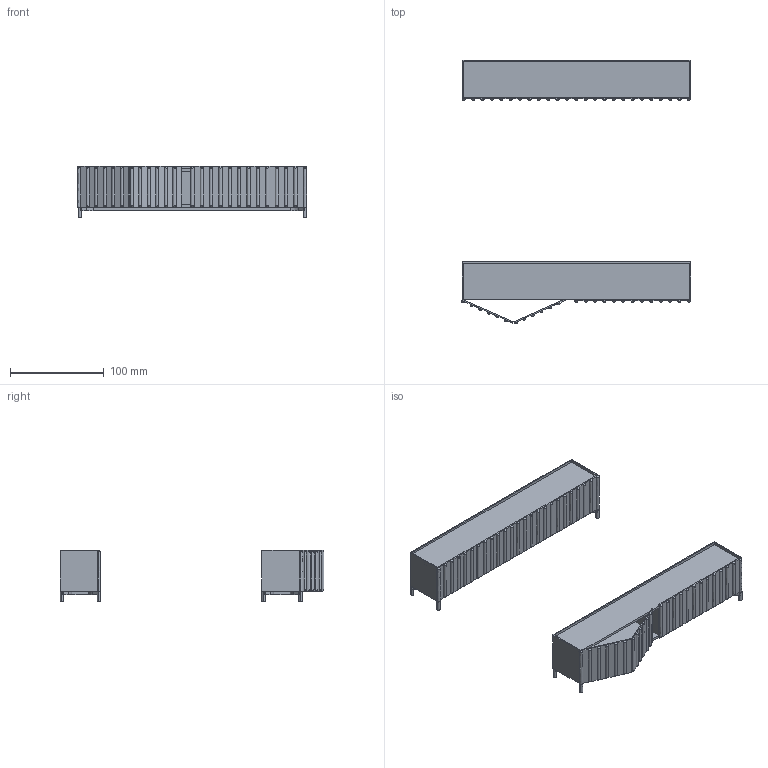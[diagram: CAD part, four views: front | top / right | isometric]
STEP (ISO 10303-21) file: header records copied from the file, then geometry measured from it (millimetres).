
FILE_DESCRIPTION(/* description */ (''),/* implementation_level */ '2;1');
FILE_NAME(/* name */ 'container243',/* time_stamp */ '2021-10-08T12:52:11+02:00',/* author */ (''),/* organization */ (''),/* preprocessor_version */ 'ST-DEVELOPER v15',/* originating_system */ '',/* authorisation */ '');
FILE_SCHEMA (('AUTOMOTIVE_DESIGN'));
Length unit declared in the file: millimetre
Products named in the file (1): Document
Bounding box: 244.21 x 281.44 x 54.5 mm (x, y, z)
Volume: 199866.1 mm3; surface area: 207463.7 mm2
Topology: 38 solids, 38 shells, 458 faces, 952 edges, 576 vertices
Faces by surface type: plane 344, bspline 114
Entity records: 13043 total; most frequent: CARTESIAN_POINT 6537, ORIENTED_EDGE 1876, EDGE_CURVE 938, B_SPLINE_CURVE_WITH_KNOTS 634, VERTEX_POINT 556, ADVANCED_FACE 458, FACE_OUTER_BOUND 458, EDGE_LOOP 458
